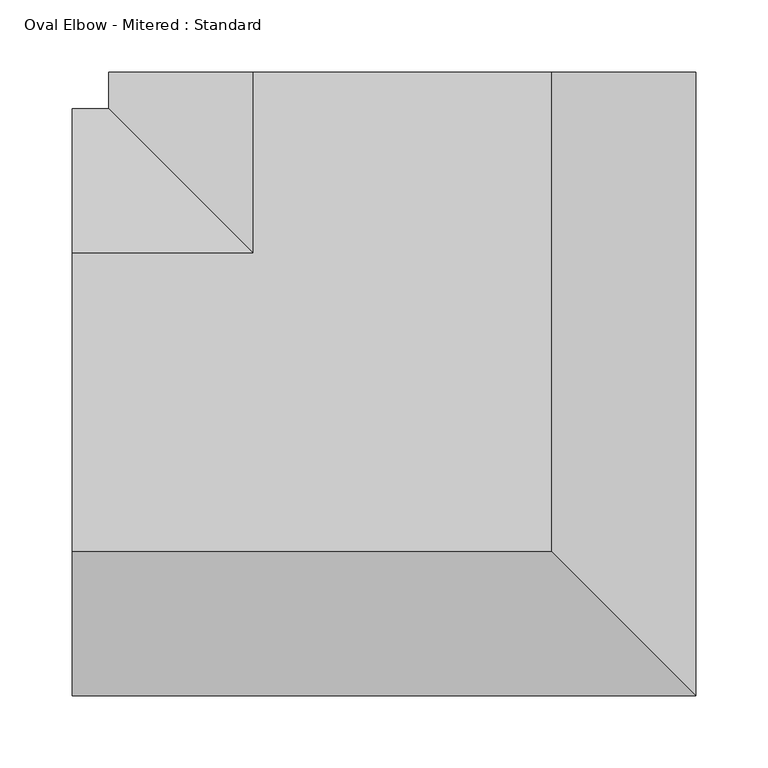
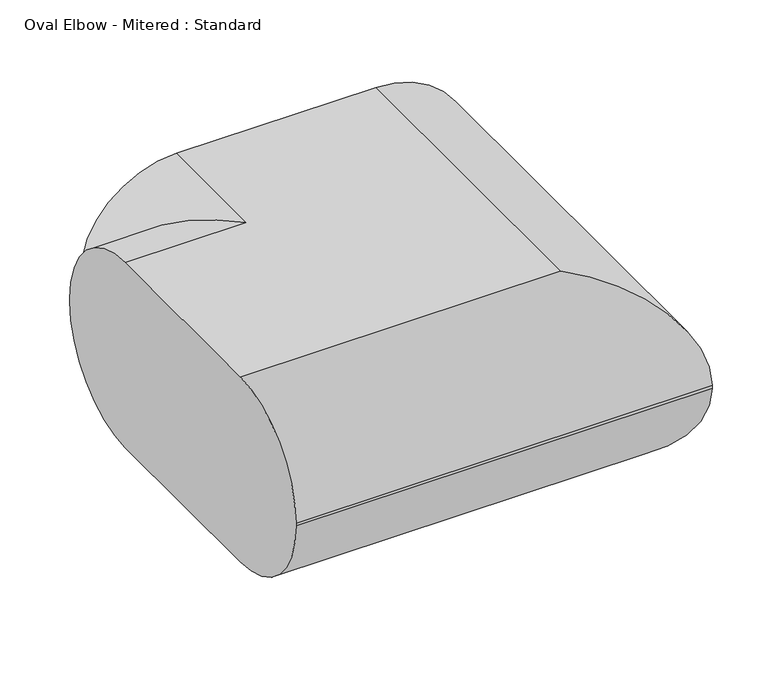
"""IFC4 building model written with IfcOpenShell, lengths in millimetres: duct fitting geometry, Oval Elbow - Mitered : Standard."""

from ifc_helpers import new_model, si_unit, frame, origin, place, context, project, spatial, circle_curve, ellipse_curve, source, transform, mapped, element, save
from ifc_brep_helpers import plane_surface, cylinder_surface, advanced_brep


def oval_elbow_mitered_standard_57953c47(model_context):
    return source(origin(), model_context, "Body", "AdvancedBrep", [
        advanced_brep(
        [(-228.6, -103.1875, 101.6), (-228.6, 103.1875, 101.6), (-228.6, 203.2, 1.5875), (-228.6, 203.2, -1.5875), (-228.6, 103.1875, -101.6), (-228.6, -103.1875, -101.6), (-228.6, -203.2, -1.5875), (-228.6, -203.2, 1.5875), (103.1875, -103.1875, 101.6), (103.1875, 228.6, 101.6), (-103.1875, 228.6, 101.6), (-103.1875, 103.1875, 101.6), (-203.2, 203.2, 1.5875), (-203.2, 203.2, -1.5875), (-103.1875, 103.1875, -101.6), (-103.1875, 228.6, -101.6), (103.1875, 228.6, -101.6), (103.1875, -103.1875, -101.6), (203.2, -203.2, -1.5875), (203.2, -203.2, 1.5875), (203.2, 228.6, 1.5875), (203.2, 228.6, -1.5875), (-203.2, 228.6, -1.5875), (-203.2, 228.6, 1.5875)],
        [
            (0, 1),
            (1, 2, circle_curve(frame((-228.6, 103.1875, 1.5875), z_axis=(-1.0, 0.0, 0.0), x_axis=(0.0, 1.0, 0.0)), 100.0125)),
            (2, 3),
            (3, 4, circle_curve(frame((-228.6, 103.1875, -1.5875), z_axis=(-1.0, 0.0, 0.0), x_axis=(0.0, 1.0, 0.0)), 100.0125)),
            (4, 5),
            (5, 6, circle_curve(frame((-228.6, -103.1875, -1.5875), z_axis=(-1.0, 0.0, 0.0), x_axis=(0.0, 1.0, 0.0)), 100.0125)),
            (6, 7),
            (7, 0, circle_curve(frame((-228.6, -103.1875, 1.5875), z_axis=(-1.0, 0.0, 0.0), x_axis=(0.0, 1.0, 0.0)), 100.0125)),
            (0, 8),
            (8, 9),
            (9, 10),
            (10, 11),
            (11, 1),
            (11, 12, ellipse_curve(frame((-103.1875, 103.1875, 1.5875), z_axis=(-0.7071067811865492, -0.7071067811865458, 0.0), x_axis=(-0.7071067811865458, 0.7071067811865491, 0.0)), 141.4390339, 100.0125)),
            (12, 2),
            (12, 13),
            (13, 3),
            (13, 14, ellipse_curve(frame((-103.1875, 103.1875, -1.5875), z_axis=(-0.7071067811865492, -0.7071067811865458, 0.0), x_axis=(-0.7071067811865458, 0.7071067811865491, 0.0)), 141.4390339, 100.0125)),
            (14, 4),
            (14, 15),
            (15, 16),
            (16, 17),
            (17, 5),
            (17, 18, ellipse_curve(frame((103.1875, -103.1875, -1.5875), z_axis=(-0.7071067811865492, -0.7071067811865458, 0.0), x_axis=(-0.7071067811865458, 0.7071067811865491, 0.0)), 141.4390339, 100.0125)),
            (18, 6),
            (18, 19),
            (19, 7),
            (19, 8, ellipse_curve(frame((103.1875, -103.1875, 1.5875), z_axis=(-0.7071067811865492, -0.7071067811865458, 0.0), x_axis=(-0.7071067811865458, 0.7071067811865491, 0.0)), 141.4390339, 100.0125)),
            (9, 20, circle_curve(frame((103.1875, 228.6, 1.5875), z_axis=(0.0, 1.0, 0.0), x_axis=(-1.0, 0.0, 0.0)), 100.0125)),
            (20, 21),
            (21, 16, circle_curve(frame((103.1875, 228.6, -1.5875), z_axis=(0.0, 1.0, 0.0), x_axis=(-1.0, 0.0, 0.0)), 100.0125)),
            (15, 22, circle_curve(frame((-103.1875, 228.6, -1.5875), z_axis=(0.0, 1.0, 0.0), x_axis=(-1.0, 0.0, 0.0)), 100.0125)),
            (22, 23),
            (23, 10, circle_curve(frame((-103.1875, 228.6, 1.5875), z_axis=(0.0, 1.0, 0.0), x_axis=(-1.0, 0.0, 0.0)), 100.0125)),
            (23, 12),
            (22, 13),
            (21, 18),
            (20, 19),
        ],
        [
            plane_surface(frame((-228.6, 0.0, 0.0), z_axis=(-1.0, 0.0, 0.0), x_axis=(0.0, 0.0, 1.0))),
            plane_surface(frame((-228.6, -103.1875, 101.6), z_axis=(0.0, 0.0, 1.0), x_axis=(1.0, 0.0, 0.0))),
            cylinder_surface(frame((-228.6, 103.1875, 1.5875), z_axis=(-1.0, 0.0, 0.0), x_axis=(0.0, 1.0, 0.0)), 100.0125),
            plane_surface(frame((-228.6, 203.2, 1.5875), z_axis=(0.0, 1.0, 0.0), x_axis=(1.0, 0.0, 0.0))),
            cylinder_surface(frame((-228.6, 103.1875, -1.5875), z_axis=(-1.0, 0.0, 0.0), x_axis=(0.0, 1.0, 0.0)), 100.0125),
            plane_surface(frame((-228.6, 103.1875, -101.6), z_axis=(0.0, 0.0, -1.0), x_axis=(1.0, 0.0, 0.0))),
            cylinder_surface(frame((-228.6, -103.1875, -1.5875), z_axis=(-1.0, 0.0, 0.0), x_axis=(0.0, 1.0, 0.0)), 100.0125),
            plane_surface(frame((-228.6, -203.2, -1.5875), z_axis=(0.0, -1.0, 0.0), x_axis=(1.0, 0.0, 0.0))),
            cylinder_surface(frame((-228.6, -103.1875, 1.5875), z_axis=(-1.0, 0.0, 0.0), x_axis=(0.0, 1.0, 0.0)), 100.0125),
            plane_surface(frame((0.0, 228.6, 0.0), z_axis=(0.0, 1.0, 0.0), x_axis=(0.0, 0.0, 1.0))),
            cylinder_surface(frame((-103.1875, 0.0, 1.5875), z_axis=(0.0, -1.0, 0.0), x_axis=(-1.0, 0.0, 0.0)), 100.0125),
            plane_surface(frame((-203.2, 203.2, 1.5875), z_axis=(-1.0, 0.0, 0.0), x_axis=(0.0, 1.0, 0.0))),
            cylinder_surface(frame((-103.1875, 0.0, -1.5875), z_axis=(0.0, -1.0, 0.0), x_axis=(-1.0, 0.0, 0.0)), 100.0125),
            cylinder_surface(frame((103.1875, 0.0, -1.5875), z_axis=(0.0, -1.0, 0.0), x_axis=(-1.0, 0.0, 0.0)), 100.0125),
            plane_surface(frame((203.2, -203.2, -1.5875), z_axis=(1.0, 0.0, 0.0), x_axis=(0.0, 1.0, 0.0))),
            cylinder_surface(frame((103.1875, 0.0, 1.5875), z_axis=(0.0, -1.0, 0.0), x_axis=(-1.0, 0.0, 0.0)), 100.0125),
        ],
        [
            (0, [[1, 2, 3, 4, 5, 6, 7, 8]]),
            (1, [[-1, 9, 10, 11, 12, 13]]),
            (2, [[-2, -13, 14, 15]]),
            (3, [[-3, -15, 16, 17]]),
            (4, [[-4, -17, 18, 19]]),
            (5, [[-5, -19, 20, 21, 22, 23]]),
            (6, [[-6, -23, 24, 25]]),
            (7, [[-7, -25, 26, 27]]),
            (8, [[-8, -27, 28, -9]]),
            (9, [[29, 30, 31, -21, 32, 33, 34, -11]]),
            (10, [[-14, -12, -34, 35]]),
            (11, [[-16, -35, -33, 36]]),
            (12, [[-18, -36, -32, -20]]),
            (13, [[-24, -22, -31, 37]]),
            (14, [[-26, -37, -30, 38]]),
            (15, [[-28, -38, -29, -10]]),
        ],
    ),
    ])


if __name__ == "__main__":
    model = new_model("IFC4")
    model_context = context("Model", 3, world=origin())
    ifc_project = project(units=[si_unit("LENGTHUNIT", "METRE", prefix="MILLI")], contexts=[model_context])
    site = spatial("IfcSite", under=ifc_project)
    building = spatial("IfcBuilding", under=site)
    placement = place(None, origin())
    oval_elbow_mitered_standard_shape = oval_elbow_mitered_standard_57953c47(model_context)
    element("IfcDuctFitting", 1, ObjectType="Oval Elbow - Mitered : Standard", at=placement, inside=building, context=model_context, shape_type="MappedRepresentation", body=[
        mapped(oval_elbow_mitered_standard_shape, transform((0.0, 0.0, 0.0), x_axis=(1.0, 0.0, 0.0), y_axis=(0.0, 1.0, 0.0), z_axis=(0.0, 0.0, 1.0))),
    ])
    save(model, "model.ifc")
